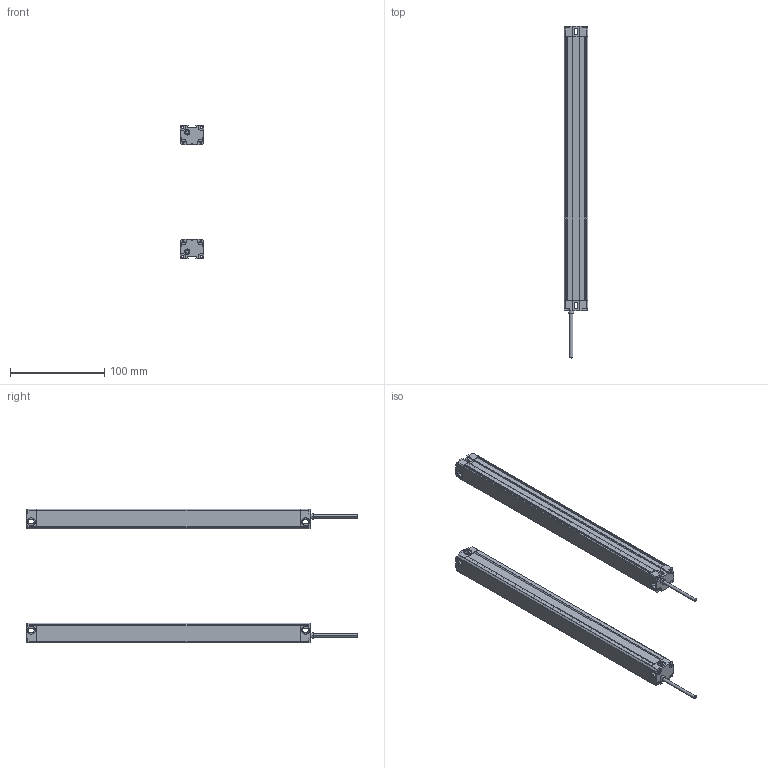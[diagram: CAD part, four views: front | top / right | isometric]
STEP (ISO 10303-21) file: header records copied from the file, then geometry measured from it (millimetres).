
FILE_DESCRIPTION (( 'STEP AP214' ), '1' );
FILE_NAME ('MTC1420.STEP', '2022-08-02T08:55:25', ( '' ), ( '' ), 'SwSTEP 2.0', 'SolidWorks 2018', '' );
FILE_SCHEMA (( 'AUTOMOTIVE_DESIGN' ));
Length unit declared in the file: millimetre
Products named in the file (5): MTC1420; P01^MTC; MTC waike^MTC; P02^MTC; 噩砃P02^MTC
Assembly tree (6 placements, depth 2):
  MTC1420
    MTC waike^MTC  x2
    P01^MTC  x2
    P02^MTC
    噩砃P02^MTC
Bounding box: 25 x 352 x 141.4 mm (x, y, z)
Volume: 106484.3 mm3; surface area: 140278.7 mm2
Topology: 8 solids, 8 shells, 480 faces, 1396 edges, 924 vertices
Faces by surface type: plane 272, cylinder 208
Entity records: 10886 total; most frequent: DIRECTION 1881, CARTESIAN_POINT 1878, ORIENTED_EDGE 1846, EDGE_CURVE 923, AXIS2_PLACEMENT_3D 637, VERTEX_POINT 610, LINE 607, VECTOR 607
